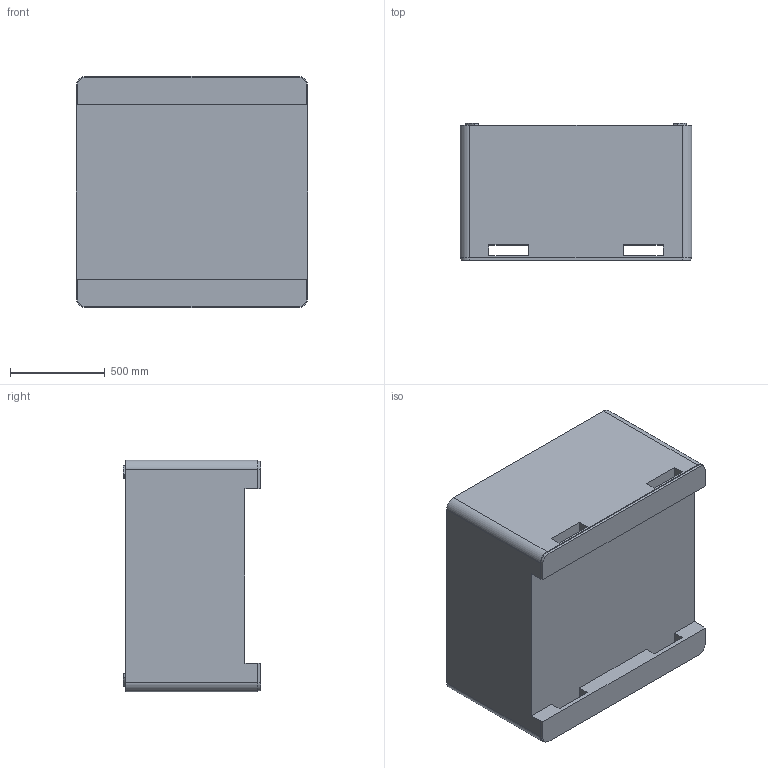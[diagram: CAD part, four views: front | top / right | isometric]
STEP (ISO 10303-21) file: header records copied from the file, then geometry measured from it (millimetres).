
FILE_DESCRIPTION (( 'STEP AP214' ), '1' );
FILE_NAME ('29FV 4-Way Block Model.STEP', '2016-10-18T14:51:20', ( '' ), ( '' ), 'SwSTEP 2.0', 'SolidWorks 2016', '' );
FILE_SCHEMA (( 'AUTOMOTIVE_DESIGN' ));
Length unit declared in the file: inch
Products named in the file (1): 29FV 4-Way Block Model
Bounding box: 1219.2 x 722.63 x 1219.2 mm (x, y, z)
Volume: 240359786 mm3; surface area: 9074377.9 mm2
Topology: 1 solids, 1 shells, 71 faces, 208 edges, 136 vertices
Faces by surface type: plane 47, cylinder 20, torus 4
Entity records: 2406 total; most frequent: CARTESIAN_POINT 464, ORIENTED_EDGE 416, DIRECTION 388, EDGE_CURVE 208, VECTOR 140, LINE 140, VERTEX_POINT 136, AXIS2_PLACEMENT_3D 124
